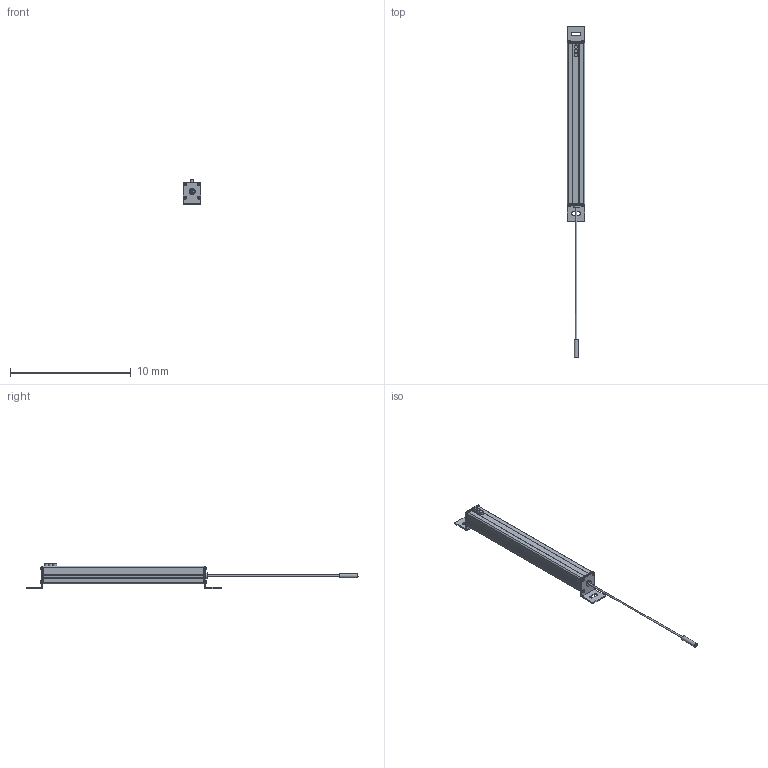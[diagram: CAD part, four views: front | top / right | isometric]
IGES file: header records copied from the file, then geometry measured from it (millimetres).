
Start section:  Autodesk DirectConnect version 7.0.27.0 ---- IGES version 5.3
Global section: file name: C:\ACADFILES\SS_PYLONS\CUSTOMER_FILES\SS-12-PYLON_3D_L.iges; native system: Autodesk DirectConnect 7.0.27.0; preprocessor: 7.0.27.0; author: ENGINEERMAIN; organization: Unknown; date: 20150810.124124; units: millimetre
Bounding box: 1.46 x 27.52 x 2.11 mm (x, y, z)
Surface area: 226.9 mm2 (no closed solid volume)
Topology: 0 solids, 0 shells, 475 faces, 2604 edges, 2623 vertices
Faces by surface type: bspline 475
